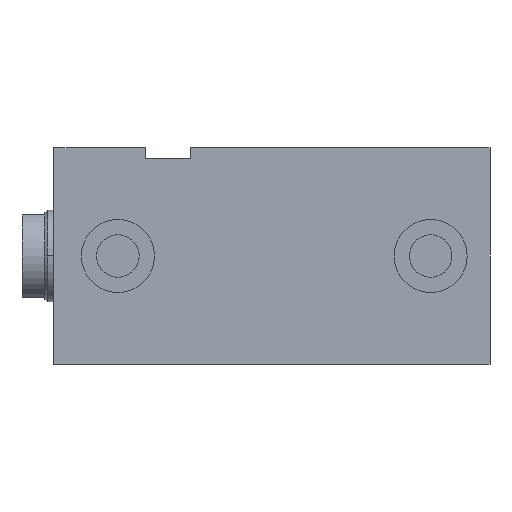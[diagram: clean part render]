
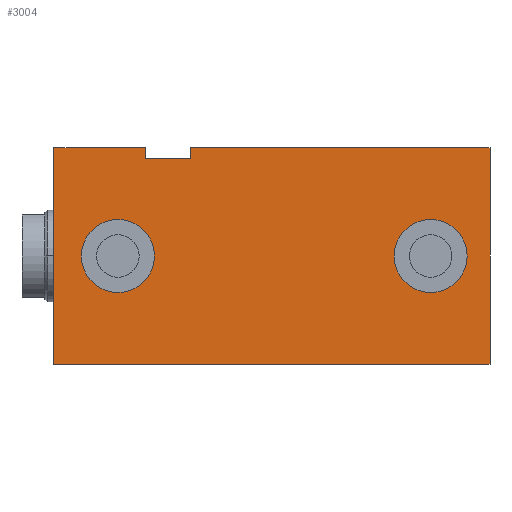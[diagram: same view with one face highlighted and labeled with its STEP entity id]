
A CAD part, left-side view. The second image highlights one B-rep face of the part: STEP entity #3004.
In plain terms, the highlighted planar face has unit normal (-1, 0, 0).
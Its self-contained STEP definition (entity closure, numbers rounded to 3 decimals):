
#3 = CARTESIAN_POINT ( 'NONE',  ( -62.5, 163., 0. ) ) ;
#12 = CARTESIAN_POINT ( 'NONE',  ( -62.5, 91., -47.5 ) ) ;
#15 = ORIENTED_EDGE ( 'NONE', *, *, #2003, .T. ) ;
#33 = DIRECTION ( 'NONE',  ( 1., 0., 0. ) ) ;
#52 = EDGE_CURVE ( 'NONE', #2987, #426, #2391, .T. ) ;
#83 = ORIENTED_EDGE ( 'NONE', *, *, #1043, .F. ) ;
#106 = VECTOR ( 'NONE', #2111, 1000. ) ;
#153 = EDGE_CURVE ( 'NONE', #2987, #2730, #2832, .T. ) ;
#167 = PLANE ( 'NONE',  #2500 ) ;
#180 = LINE ( 'NONE', #2078, #106 ) ;
#214 = EDGE_CURVE ( 'NONE', #2815, #2730, #2123, .T. ) ;
#224 = FACE_BOUND ( 'NONE', #2695, .T. ) ;
#238 = VERTEX_POINT ( 'NONE', #756 ) ;
#251 = VECTOR ( 'NONE', #675, 1000. ) ;
#315 = EDGE_CURVE ( 'NONE', #2271, #595, #1965, .T. ) ;
#345 = DIRECTION ( 'NONE',  ( 0., 0., 1. ) ) ;
#364 = CARTESIAN_POINT ( 'NONE',  ( -62.5, 151., 42.5 ) ) ;
#373 = CARTESIAN_POINT ( 'NONE',  ( -62.5, 131., 42.5 ) ) ;
#380 = EDGE_CURVE ( 'NONE', #2705, #1184, #590, .T. ) ;
#426 = VERTEX_POINT ( 'NONE', #1283 ) ;
#456 = DIRECTION ( 'NONE',  ( 0., -1., 0. ) ) ;
#518 = CARTESIAN_POINT ( 'NONE',  ( -62.5, 151., 42.5 ) ) ;
#537 = VECTOR ( 'NONE', #3003, 1000. ) ;
#550 = DIRECTION ( 'NONE',  ( 0., 0., 1. ) ) ;
#573 = VERTEX_POINT ( 'NONE', #2173 ) ;
#590 = CIRCLE ( 'NONE', #1864, 16. ) ;
#595 = VERTEX_POINT ( 'NONE', #2242 ) ;
#658 = CARTESIAN_POINT ( 'NONE',  ( -62.5, 163., -16. ) ) ;
#675 = DIRECTION ( 'NONE',  ( 0., -1., 0. ) ) ;
#685 = CARTESIAN_POINT ( 'NONE',  ( -62.5, 91., 47.5 ) ) ;
#718 = CIRCLE ( 'NONE', #1087, 16. ) ;
#734 = ORIENTED_EDGE ( 'NONE', *, *, #214, .F. ) ;
#756 = CARTESIAN_POINT ( 'NONE',  ( -62.5, 191., -47.5 ) ) ;
#805 = ORIENTED_EDGE ( 'NONE', *, *, #2014, .F. ) ;
#839 = CARTESIAN_POINT ( 'NONE',  ( -62.5, 191., -47.5 ) ) ;
#863 = FACE_BOUND ( 'NONE', #1772, .T. ) ;
#904 = DIRECTION ( 'NONE',  ( 0., 0., 1. ) ) ;
#974 = DIRECTION ( 'NONE',  ( -1., 0., 0. ) ) ;
#980 = CARTESIAN_POINT ( 'NONE',  ( -62.5, 26., 0. ) ) ;
#990 = DIRECTION ( 'NONE',  ( -1., 0., 0. ) ) ;
#1004 = DIRECTION ( 'NONE',  ( 0., 0., 1. ) ) ;
#1020 = VECTOR ( 'NONE', #345, 1000. ) ;
#1043 = EDGE_CURVE ( 'NONE', #238, #2815, #2243, .T. ) ;
#1087 = AXIS2_PLACEMENT_3D ( 'NONE', #2214, #2204, #2194 ) ;
#1145 = DIRECTION ( 'NONE',  ( 0., 0., 1. ) ) ;
#1184 = VERTEX_POINT ( 'NONE', #658 ) ;
#1203 = CARTESIAN_POINT ( 'NONE',  ( -62.5, 163., 0. ) ) ;
#1210 = DIRECTION ( 'NONE',  ( -1., 0., 0. ) ) ;
#1213 = DIRECTION ( 'NONE',  ( 0., 0., 1. ) ) ;
#1224 = ORIENTED_EDGE ( 'NONE', *, *, #380, .F. ) ;
#1283 = CARTESIAN_POINT ( 'NONE',  ( -62.5, 131., 42.5 ) ) ;
#1341 = CARTESIAN_POINT ( 'NONE',  ( -62.5, 26., 16. ) ) ;
#1376 = ORIENTED_EDGE ( 'NONE', *, *, #153, .T. ) ;
#1396 = VECTOR ( 'NONE', #2064, 1000. ) ;
#1428 = AXIS2_PLACEMENT_3D ( 'NONE', #980, #990, #1004 ) ;
#1451 = VERTEX_POINT ( 'NONE', #2903 ) ;
#1470 = LINE ( 'NONE', #2108, #1396 ) ;
#1554 = EDGE_CURVE ( 'NONE', #1184, #2705, #2777, .T. ) ;
#1593 = CARTESIAN_POINT ( 'NONE',  ( -62.5, 191., 47.5 ) ) ;
#1598 = VECTOR ( 'NONE', #550, 1000. ) ;
#1657 = VECTOR ( 'NONE', #904, 1000. ) ;
#1673 = EDGE_CURVE ( 'NONE', #238, #573, #2375, .T. ) ;
#1695 = DIRECTION ( 'NONE',  ( 0., 0., -1. ) ) ;
#1753 = ORIENTED_EDGE ( 'NONE', *, *, #1554, .F. ) ;
#1772 = EDGE_LOOP ( 'NONE', ( #1224, #1753 ) ) ;
#1804 = EDGE_LOOP ( 'NONE', ( #805, #2580, #1958, #1376, #734, #83, #1896, #15 ) ) ;
#1826 = ORIENTED_EDGE ( 'NONE', *, *, #2793, .F. ) ;
#1856 = VERTEX_POINT ( 'NONE', #2466 ) ;
#1864 = AXIS2_PLACEMENT_3D ( 'NONE', #1203, #1210, #1213 ) ;
#1896 = ORIENTED_EDGE ( 'NONE', *, *, #1673, .T. ) ;
#1958 = ORIENTED_EDGE ( 'NONE', *, *, #52, .F. ) ;
#1965 = CIRCLE ( 'NONE', #1428, 16. ) ;
#2003 = EDGE_CURVE ( 'NONE', #573, #1856, #1470, .T. ) ;
#2014 = EDGE_CURVE ( 'NONE', #1451, #1856, #180, .T. ) ;
#2064 = DIRECTION ( 'NONE',  ( 0., 0., 1. ) ) ;
#2078 = CARTESIAN_POINT ( 'NONE',  ( -62.5, 91., 47.5 ) ) ;
#2108 = CARTESIAN_POINT ( 'NONE',  ( -62.5, 0., -47.5 ) ) ;
#2111 = DIRECTION ( 'NONE',  ( 0., -1., 0. ) ) ;
#2123 = LINE ( 'NONE', #685, #251 ) ;
#2173 = CARTESIAN_POINT ( 'NONE',  ( -62.5, 0., -47.5 ) ) ;
#2194 = DIRECTION ( 'NONE',  ( 0., 0., 1. ) ) ;
#2204 = DIRECTION ( 'NONE',  ( -1., 0., 0. ) ) ;
#2214 = CARTESIAN_POINT ( 'NONE',  ( -62.5, 26., 0. ) ) ;
#2242 = CARTESIAN_POINT ( 'NONE',  ( -62.5, 26., -16. ) ) ;
#2243 = LINE ( 'NONE', #839, #1657 ) ;
#2249 = CARTESIAN_POINT ( 'NONE',  ( -62.5, 151., 42.5 ) ) ;
#2271 = VERTEX_POINT ( 'NONE', #1341 ) ;
#2375 = LINE ( 'NONE', #2836, #537 ) ;
#2391 = LINE ( 'NONE', #364, #3046 ) ;
#2416 = ORIENTED_EDGE ( 'NONE', *, *, #315, .F. ) ;
#2466 = CARTESIAN_POINT ( 'NONE',  ( -62.5, 0., 47.5 ) ) ;
#2500 = AXIS2_PLACEMENT_3D ( 'NONE', #12, #33, #1695 ) ;
#2580 = ORIENTED_EDGE ( 'NONE', *, *, #2972, .F. ) ;
#2689 = AXIS2_PLACEMENT_3D ( 'NONE', #3, #974, #1145 ) ;
#2695 = EDGE_LOOP ( 'NONE', ( #2416, #1826 ) ) ;
#2705 = VERTEX_POINT ( 'NONE', #2949 ) ;
#2722 = FACE_OUTER_BOUND ( 'NONE', #1804, .T. ) ;
#2730 = VERTEX_POINT ( 'NONE', #2807 ) ;
#2777 = CIRCLE ( 'NONE', #2689, 16. ) ;
#2793 = EDGE_CURVE ( 'NONE', #595, #2271, #718, .T. ) ;
#2807 = CARTESIAN_POINT ( 'NONE',  ( -62.5, 151., 47.5 ) ) ;
#2815 = VERTEX_POINT ( 'NONE', #1593 ) ;
#2832 = LINE ( 'NONE', #518, #1598 ) ;
#2836 = CARTESIAN_POINT ( 'NONE',  ( -62.5, 91., -47.5 ) ) ;
#2872 = LINE ( 'NONE', #373, #1020 ) ;
#2903 = CARTESIAN_POINT ( 'NONE',  ( -62.5, 131., 47.5 ) ) ;
#2949 = CARTESIAN_POINT ( 'NONE',  ( -62.5, 163., 16. ) ) ;
#2972 = EDGE_CURVE ( 'NONE', #426, #1451, #2872, .T. ) ;
#2987 = VERTEX_POINT ( 'NONE', #2249 ) ;
#3003 = DIRECTION ( 'NONE',  ( 0., -1., 0. ) ) ;
#3004 = ADVANCED_FACE ( 'NONE', ( #2722, #224, #863 ), #167, .F. ) ;
#3046 = VECTOR ( 'NONE', #456, 1000. ) ;
